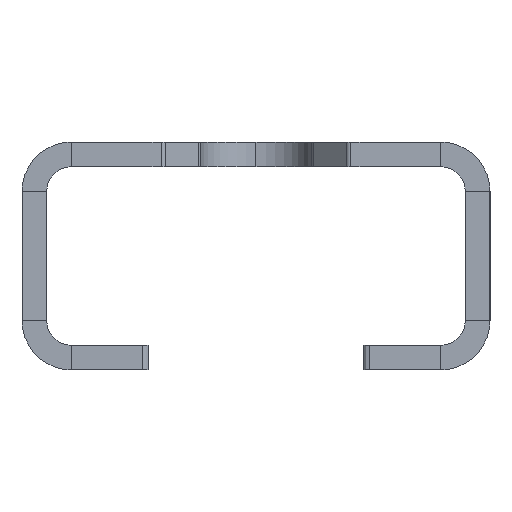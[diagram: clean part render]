
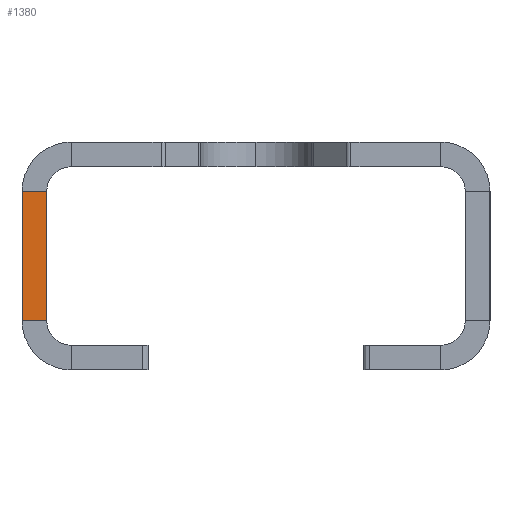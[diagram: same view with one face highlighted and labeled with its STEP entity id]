
A CAD part, left-side view. The second image highlights one B-rep face of the part: STEP entity #1380.
In plain terms, the highlighted planar face has unit normal (-1, 0, 0).
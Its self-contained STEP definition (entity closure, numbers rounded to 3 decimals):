
#17 = CARTESIAN_POINT ( 'NONE',  ( -572.5, 17., -4. ) ) ;
#52 = CARTESIAN_POINT ( 'NONE',  ( -572.5, 19., -4. ) ) ;
#111 = PLANE ( 'NONE',  #476 ) ;
#120 = DIRECTION ( 'NONE',  ( 0., -1., 0. ) ) ;
#170 = CARTESIAN_POINT ( 'NONE',  ( -572.5, 15., -16.5 ) ) ;
#476 = AXIS2_PLACEMENT_3D ( 'NONE', #170, #3608, #5365 ) ;
#543 = FACE_OUTER_BOUND ( 'NONE', #4954, .T. ) ;
#728 = VERTEX_POINT ( 'NONE', #1318 ) ;
#912 = ORIENTED_EDGE ( 'NONE', *, *, #1903, .T. ) ;
#1318 = CARTESIAN_POINT ( 'NONE',  ( -572.5, 19., -14.5 ) ) ;
#1380 = ADVANCED_FACE ( 'NONE', ( #543 ), #111, .T. ) ;
#1795 = VERTEX_POINT ( 'NONE', #52 ) ;
#1903 = EDGE_CURVE ( 'NONE', #4413, #5531, #5008, .T. ) ;
#2017 = CARTESIAN_POINT ( 'NONE',  ( -572.5, 17., 0. ) ) ;
#2069 = LINE ( 'NONE', #2994, #2215 ) ;
#2132 = DIRECTION ( 'NONE',  ( 0., 0., 1. ) ) ;
#2215 = VECTOR ( 'NONE', #2132, 1000. ) ;
#2286 = VECTOR ( 'NONE', #3782, 1000. ) ;
#2305 = LINE ( 'NONE', #2785, #4771 ) ;
#2785 = CARTESIAN_POINT ( 'NONE',  ( -572.5, 19., -14.5 ) ) ;
#2854 = VECTOR ( 'NONE', #3400, 1000. ) ;
#2903 = LINE ( 'NONE', #3770, #2854 ) ;
#2994 = CARTESIAN_POINT ( 'NONE',  ( -572.5, 19., 0. ) ) ;
#3014 = EDGE_CURVE ( 'NONE', #728, #4413, #2305, .T. ) ;
#3400 = DIRECTION ( 'NONE',  ( 0., 1., 0. ) ) ;
#3509 = EDGE_CURVE ( 'NONE', #728, #1795, #2069, .T. ) ;
#3608 = DIRECTION ( 'NONE',  ( -1., 0., 0. ) ) ;
#3770 = CARTESIAN_POINT ( 'NONE',  ( -572.5, 17., -4. ) ) ;
#3782 = DIRECTION ( 'NONE',  ( 0., 0., 1. ) ) ;
#3895 = EDGE_CURVE ( 'NONE', #5531, #1795, #2903, .T. ) ;
#4385 = ORIENTED_EDGE ( 'NONE', *, *, #3014, .T. ) ;
#4413 = VERTEX_POINT ( 'NONE', #5078 ) ;
#4771 = VECTOR ( 'NONE', #120, 1000. ) ;
#4920 = ORIENTED_EDGE ( 'NONE', *, *, #3509, .F. ) ;
#4954 = EDGE_LOOP ( 'NONE', ( #4920, #4385, #912, #4958 ) ) ;
#4958 = ORIENTED_EDGE ( 'NONE', *, *, #3895, .T. ) ;
#5008 = LINE ( 'NONE', #2017, #2286 ) ;
#5078 = CARTESIAN_POINT ( 'NONE',  ( -572.5, 17., -14.5 ) ) ;
#5365 = DIRECTION ( 'NONE',  ( 0., 0., 1. ) ) ;
#5531 = VERTEX_POINT ( 'NONE', #17 ) ;
